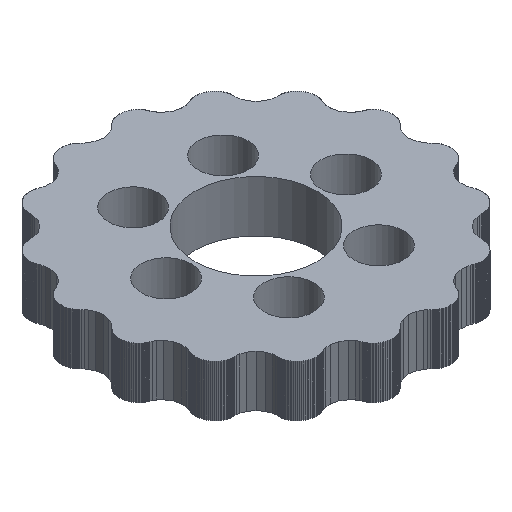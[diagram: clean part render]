
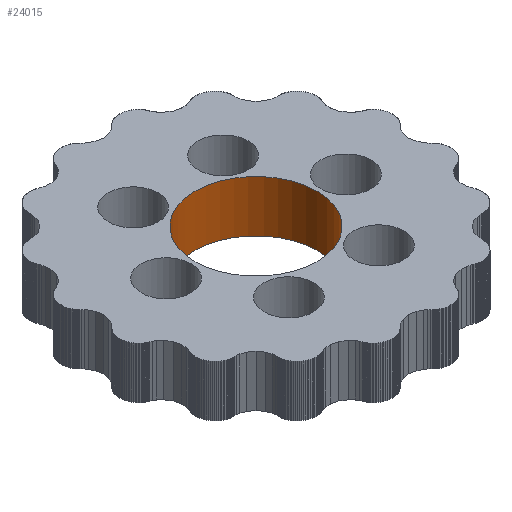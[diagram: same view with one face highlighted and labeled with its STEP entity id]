
A CAD part, isometric view. The second image highlights one B-rep face of the part: STEP entity #24015.
In plain terms, the highlighted cylindrical face has radius 9.5 mm (diameter 19 mm), a full revolution.
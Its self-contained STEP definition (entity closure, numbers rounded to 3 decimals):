
#5906 = EDGE_CURVE('',#5907,#5907,#5909,.T.);
#5907 = VERTEX_POINT('',#5908);
#5908 = CARTESIAN_POINT('',(9.5,0.,6.));
#5909 = CIRCLE('',#5910,9.5);
#5910 = AXIS2_PLACEMENT_3D('',#5911,#5912,#5913);
#5911 = CARTESIAN_POINT('',(0.,0.,6.));
#5912 = DIRECTION('',(0.,0.,1.));
#5913 = DIRECTION('',(1.,0.,-0.));
#11728 = EDGE_CURVE('',#11729,#11729,#11731,.T.);
#11729 = VERTEX_POINT('',#11730);
#11730 = CARTESIAN_POINT('',(9.5,0.,14.));
#11731 = CIRCLE('',#11732,9.5);
#11732 = AXIS2_PLACEMENT_3D('',#11733,#11734,#11735);
#11733 = CARTESIAN_POINT('',(0.,0.,14.));
#11734 = DIRECTION('',(0.,0.,1.));
#11735 = DIRECTION('',(1.,0.,-0.));
#24015 = ADVANCED_FACE('',(#24016),#24027,.F.);
#24016 = FACE_BOUND('',#24017,.F.);
#24017 = EDGE_LOOP('',(#24018,#24019,#24025,#24026));
#24018 = ORIENTED_EDGE('',*,*,#11728,.F.);
#24019 = ORIENTED_EDGE('',*,*,#24020,.F.);
#24020 = EDGE_CURVE('',#5907,#11729,#24021,.T.);
#24021 = LINE('',#24022,#24023);
#24022 = CARTESIAN_POINT('',(9.5,0.,5.));
#24023 = VECTOR('',#24024,1.);
#24024 = DIRECTION('',(0.,0.,1.));
#24025 = ORIENTED_EDGE('',*,*,#5906,.T.);
#24026 = ORIENTED_EDGE('',*,*,#24020,.T.);
#24027 = CYLINDRICAL_SURFACE('',#24028,9.5);
#24028 = AXIS2_PLACEMENT_3D('',#24029,#24030,#24031);
#24029 = CARTESIAN_POINT('',(0.,0.,5.));
#24030 = DIRECTION('',(0.,0.,1.));
#24031 = DIRECTION('',(1.,0.,-0.));
